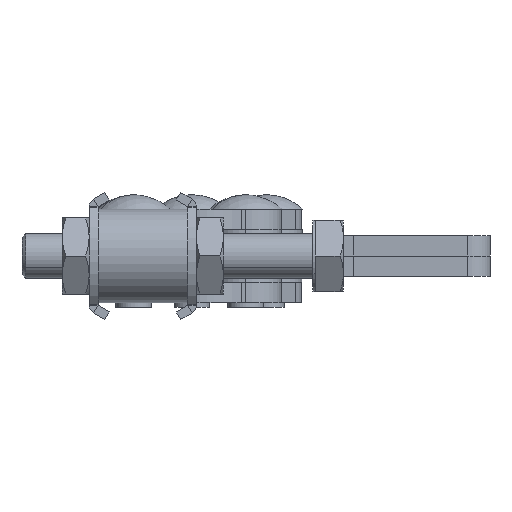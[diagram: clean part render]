
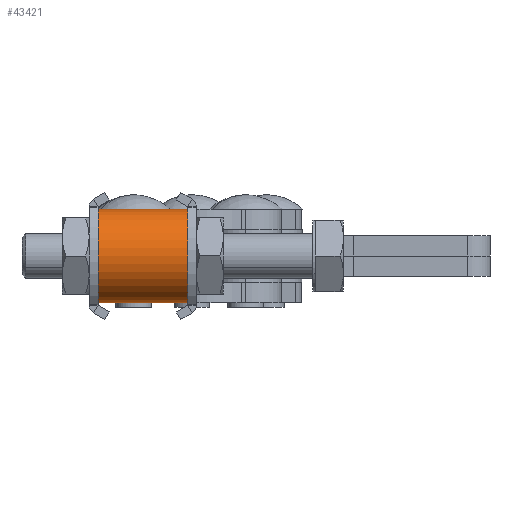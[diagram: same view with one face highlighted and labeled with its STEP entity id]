
A CAD part, left-side view. The second image highlights one B-rep face of the part: STEP entity #43421.
In plain terms, the highlighted cylindrical face has radius 10.5 mm (diameter 21 mm), a partial arc.
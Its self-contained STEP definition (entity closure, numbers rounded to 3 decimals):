
#742 = DIRECTION ( 'NONE',  ( 0., 1., 0. ) ) ;
#1218 = ORIENTED_EDGE ( 'NONE', *, *, #49955, .T. ) ;
#2256 = AXIS2_PLACEMENT_3D ( 'NONE', #24061, #742, #28004 ) ;
#2547 = AXIS2_PLACEMENT_3D ( 'NONE', #32827, #9486, #36726 ) ;
#3250 = DIRECTION ( 'NONE',  ( 0., 0., 1. ) ) ;
#4352 = AXIS2_PLACEMENT_3D ( 'NONE', #18942, #46202, #3250 ) ;
#5800 = CARTESIAN_POINT ( 'NONE',  ( -97.6, -41., -10.5 ) ) ;
#6142 = LINE ( 'NONE', #9659, #46397 ) ;
#9162 = CYLINDRICAL_SURFACE ( 'NONE', #4352, 10.5 ) ;
#9486 = DIRECTION ( 'NONE',  ( 0., 1., 0. ) ) ;
#9659 = CARTESIAN_POINT ( 'NONE',  ( -97.6, -41., 10.5 ) ) ;
#13523 = DIRECTION ( 'NONE',  ( 0., 1., 0. ) ) ;
#13713 = VERTEX_POINT ( 'NONE', #46841 ) ;
#14961 = ORIENTED_EDGE ( 'NONE', *, *, #32739, .F. ) ;
#18942 = CARTESIAN_POINT ( 'NONE',  ( -97.6, -41., 0. ) ) ;
#19991 = CIRCLE ( 'NONE', #2547, 10.5 ) ;
#23082 = VECTOR ( 'NONE', #29155, 1000. ) ;
#23579 = EDGE_CURVE ( 'NONE', #47908, #13713, #19991, .T. ) ;
#24061 = CARTESIAN_POINT ( 'NONE',  ( -97.6, -20., 0. ) ) ;
#24665 = EDGE_LOOP ( 'NONE', ( #14961, #1218, #40684, #48393 ) ) ;
#27892 = CARTESIAN_POINT ( 'NONE',  ( -97.6, -20., 10.5 ) ) ;
#28004 = DIRECTION ( 'NONE',  ( 0., 0., -1. ) ) ;
#29155 = DIRECTION ( 'NONE',  ( 0., 1., 0. ) ) ;
#29664 = EDGE_CURVE ( 'NONE', #42232, #13713, #6142, .T. ) ;
#32331 = FACE_OUTER_BOUND ( 'NONE', #24665, .T. ) ;
#32739 = EDGE_CURVE ( 'NONE', #40287, #47908, #45064, .T. ) ;
#32827 = CARTESIAN_POINT ( 'NONE',  ( -97.6, 0., 0. ) ) ;
#36726 = DIRECTION ( 'NONE',  ( 1., 0., 0. ) ) ;
#38676 = CIRCLE ( 'NONE', #2256, 10.5 ) ;
#40287 = VERTEX_POINT ( 'NONE', #49038 ) ;
#40684 = ORIENTED_EDGE ( 'NONE', *, *, #29664, .T. ) ;
#42232 = VERTEX_POINT ( 'NONE', #27892 ) ;
#43421 = ADVANCED_FACE ( 'NONE', ( #32331 ), #9162, .T. ) ;
#45064 = LINE ( 'NONE', #5800, #23082 ) ;
#46202 = DIRECTION ( 'NONE',  ( 0., 1., 0. ) ) ;
#46397 = VECTOR ( 'NONE', #13523, 1000. ) ;
#46841 = CARTESIAN_POINT ( 'NONE',  ( -97.6, 0., 10.5 ) ) ;
#47254 = CARTESIAN_POINT ( 'NONE',  ( -97.6, 0., -10.5 ) ) ;
#47908 = VERTEX_POINT ( 'NONE', #47254 ) ;
#48393 = ORIENTED_EDGE ( 'NONE', *, *, #23579, .F. ) ;
#49038 = CARTESIAN_POINT ( 'NONE',  ( -97.6, -20., -10.5 ) ) ;
#49955 = EDGE_CURVE ( 'NONE', #40287, #42232, #38676, .T. ) ;
